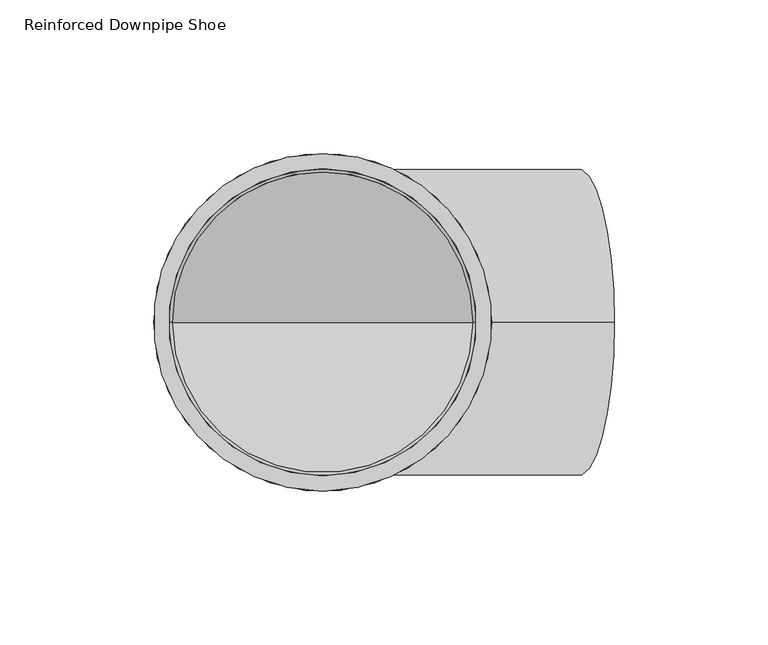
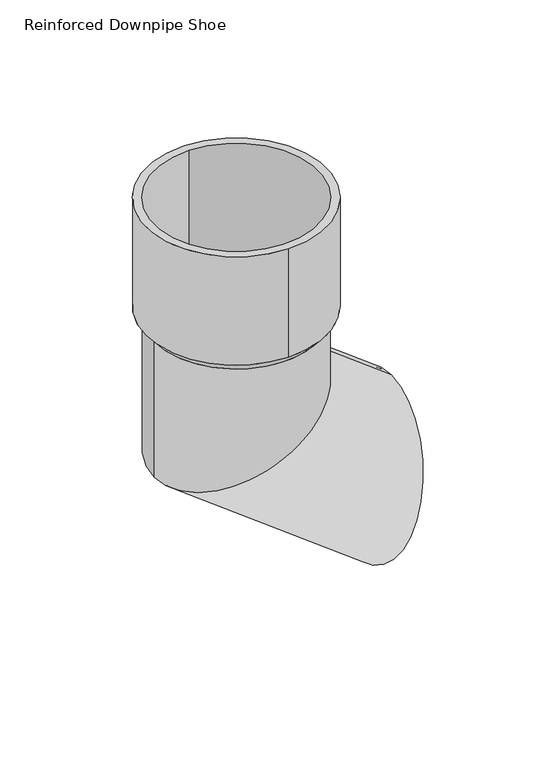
"""IFC4 building model written with IfcOpenShell, lengths in millimetres: proxy geometry, GROVIK_Special_Reinforced Downpipe_Shoe : Reinforced Downpipe Shoe."""

from ifc_helpers import new_model, si_unit, point, frame, origin, origin_with_axes, origin_2d, place, context, project, spatial, polyline, circle_curve, ellipse_curve, trimmed, segment, composite_curve, outline, extrude, source, transform, mapped, element, save
from ifc_brep_helpers import plane_surface, cylinder_surface, revolved_surface, advanced_brep


def reinforced_downpipe_shoe_404acd6b(model_context):
    return source(origin(), model_context, "Body", "SolidModel", [
        extrude(outline(composite_curve([segment(trimmed(circle_curve(origin_2d(), 55.0), [point((0.0, 55.0))], [point((0.0, -55.0))], False, "CARTESIAN"), True, "CONTINUOUS"), segment(trimmed(circle_curve(origin_2d(), 55.0), [point((0.0, -55.0))], [point((0.0, 55.0))], False, "CARTESIAN"), True, "CONTINUOUS")], self_intersect=False), holes=[composite_curve([segment(trimmed(circle_curve(origin_2d(), 50.0), [point((0.0, 50.0))], [point((0.0, -50.0))], True, "CARTESIAN"), True, "CONTINUOUS"), segment(trimmed(circle_curve(origin_2d(), 50.0), [point((0.0, -50.0))], [point((0.0, 50.0))], True, "CARTESIAN"), True, "CONTINUOUS")], self_intersect=False)]), frame((0.0, 0.0, 6.0), z_axis=(0.0, 0.0, 1.0), x_axis=(1.0, 0.0, 0.0)), (0.0, 0.0, 1.0), 70.0),
        advanced_brep(
        [(-55.0, 0.0, 6.0), (55.0, 0.0, 6.0), (50.0, 0.0, 6.0), (-50.0, 0.0, 6.0), (-50.0, 0.0, 0.0), (50.0, 0.0, 0.0), (-49.0, 0.0, 0.0), (49.0, 0.0, 0.0)],
        [
            (0, 1, circle_curve(frame((0.0, 0.0, 6.0), z_axis=(0.0, 0.0, 1.0), x_axis=(-1.0, 0.0, 0.0)), 55.0)),
            (1, 0, circle_curve(frame((0.0, 0.0, 6.0), z_axis=(0.0, 0.0, 1.0), x_axis=(1.0, 0.0, 0.0)), 55.0)),
            (2, 3, circle_curve(frame((0.0, 0.0, 6.0), z_axis=(0.0, 0.0, -1.0), x_axis=(-1.0, 0.0, 0.0)), 50.0)),
            (3, 2, circle_curve(frame((0.0, 0.0, 6.0), z_axis=(0.0, 0.0, -1.0), x_axis=(1.0, 0.0, 0.0)), 50.0)),
            (4, 5, circle_curve(frame((0.0, 0.0, 0.0), z_axis=(0.0, 0.0, -1.0), x_axis=(1.0, 0.0, 0.0)), 50.0)),
            (5, 4, circle_curve(frame((0.0, 0.0, 0.0), z_axis=(0.0, 0.0, -1.0), x_axis=(-1.0, 0.0, 0.0)), 50.0)),
            (6, 7, circle_curve(frame((0.0, 0.0, 0.0), z_axis=(0.0, 0.0, 1.0), x_axis=(-1.0, 0.0, 0.0)), 49.0)),
            (7, 6, circle_curve(origin_with_axes(), 49.0)),
            (0, 4),
            (5, 1),
            (6, 3),
            (2, 7),
        ],
        [
            plane_surface(frame((0.0, 0.0, 6.0), z_axis=(0.0, 0.0, 1.0), x_axis=(0.0, -1.0, 0.0))),
            plane_surface(frame((0.0, 0.0, 0.0), z_axis=(0.0, 0.0, -1.0), x_axis=(0.0, -1.0, 0.0))),
            revolved_surface(polyline([(50.0, 0.0, 0.0), (55.0, 0.0, 6.0)]), (0.0, 0.0, -60.0), (0.0, 0.0, 1.0)),
            revolved_surface(polyline([(-50.0, 0.0, 0.0), (-55.0, 0.0, 6.0)]), (0.0, 0.0, -60.0), (0.0, 0.0, 1.0)),
            revolved_surface(polyline([(-50.0, 0.0, 6.0), (-49.0, 0.0, 0.0)]), (0.0, 0.0, -294.0), (0.0, 0.0, 1.0)),
        ],
        [
            (0, [[1, 2], [3, 4]]),
            (1, [[5, 6], [7, 8]]),
            (2, [[-1, 9, -6, 10]]),
            (3, [[-2, -10, -5, -9]]),
            (4, [[11, -3, 12, -7]]),
            (4, [[-11, -8, -12, -4]]),
        ],
    ),
        advanced_brep(
        [(50.0, 0.0, 0.0), (-50.0, 0.0, 0.0), (49.0, 0.0, 0.0), (-49.0, 0.0, 0.0), (-50.0, 0.0, -87.6357931), (50.0, 0.0, -37.94978), (-49.0, 0.0, -87.138933), (49.0, 0.0, -38.4466401), (94.9681559, 0.0, -72.0306667), (71.0800477, 0.0, -179.4010726), (94.7292748, 0.0, -73.1043708), (71.3189288, 0.0, -178.3273685)],
        [
            (0, 1, circle_curve(frame((0.0, 0.0, 0.0), z_axis=(0.0, 0.0, 1.0), x_axis=(-1.0, 0.0, 0.0)), 50.0)),
            (1, 0, circle_curve(frame((0.0, 0.0, 0.0), z_axis=(0.0, 0.0, 1.0), x_axis=(-1.0, 0.0, 0.0)), 50.0)),
            (2, 3, circle_curve(frame((0.0, 0.0, 0.0), z_axis=(0.0, 0.0, -1.0), x_axis=(-1.0, 0.0, 0.0)), 49.0)),
            (3, 2, circle_curve(frame((0.0, 0.0, 0.0), z_axis=(0.0, 0.0, -1.0), x_axis=(-1.0, 0.0, 0.0)), 49.0)),
            (1, 4),
            (4, 5, ellipse_curve(frame((0.0, 0.0, -62.7927865), z_axis=(-0.4449626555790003, 0.0, 0.8955491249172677), x_axis=(-0.8955491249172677, 0.0, -0.4449626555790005)), 55.8316664, 50.0)),
            (5, 0),
            (5, 4, ellipse_curve(frame((0.0, 0.0, -62.7927865), z_axis=(-0.4449626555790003, 0.0, 0.8955491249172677), x_axis=(-0.8955491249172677, 0.0, -0.4449626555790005)), 55.8316664, 50.0)),
            (3, 6),
            (6, 7, ellipse_curve(frame((0.0, 0.0, -62.7927865), z_axis=(0.4449626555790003, 0.0, -0.8955491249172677), x_axis=(0.8955491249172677, 0.0, 0.4449626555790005)), 54.7150331, 49.0)),
            (7, 2),
            (7, 6, ellipse_curve(frame((0.0, 0.0, -62.7927865), z_axis=(0.4449626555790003, 0.0, -0.8955491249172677), x_axis=(0.8955491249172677, 0.0, 0.4449626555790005)), 54.7150331, 49.0)),
            (8, 9, ellipse_curve(frame((83.0241018, 0.0, -125.7158696), z_axis=(0.9761330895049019, 0.0, -0.21717318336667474), x_axis=(-0.21717318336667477, 0.0, -0.9761330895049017)), 54.9978312, 50.0)),
            (9, 8, ellipse_curve(frame((83.0241018, 0.0, -125.7158696), z_axis=(0.9761330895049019, 0.0, -0.21717318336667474), x_axis=(-0.21717318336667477, 0.0, -0.9761330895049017)), 54.9978312, 50.0)),
            (10, 11, ellipse_curve(frame((83.0241018, 0.0, -125.7158696), z_axis=(-0.9761330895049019, 0.0, 0.21717318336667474), x_axis=(0.21717318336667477, 0.0, 0.9761330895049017)), 53.8978746, 49.0)),
            (11, 10, ellipse_curve(frame((83.0241018, 0.0, -125.7158696), z_axis=(-0.9761330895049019, 0.0, 0.21717318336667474), x_axis=(0.21717318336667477, 0.0, 0.9761330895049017)), 53.8978746, 49.0)),
            (4, 9),
            (8, 5),
            (6, 11),
            (10, 7),
        ],
        [
            plane_surface(frame((0.0, 0.0, 0.0), z_axis=(0.0, 0.0, 1.0), x_axis=(0.0, -1.0, 0.0))),
            cylinder_surface(frame((0.0, 0.0, -62.7927865), z_axis=(0.0, 0.0, -1.0), x_axis=(-1.0, 0.0, 0.0)), 50.0),
            revolved_surface(polyline([(-49.0, 0.0, 0.0), (-49.0, 0.0, -87.138933)]), (0.0, 0.0, -62.7927865), (0.0, 0.0, 1.0)),
            plane_surface(frame((100.9121688, -81.0153965, -45.3139811), z_axis=(0.9761330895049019, 0.0, -0.21717318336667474), x_axis=(0.0, 1.0, 0.0))),
            cylinder_surface(frame((109.7880749, 0.0, -146.0), z_axis=(0.7969718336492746, 0.0, -0.604016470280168), x_axis=(-0.604016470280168, 0.0, -0.7969718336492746)), 50.0),
            revolved_surface(polyline([(-49.00000002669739, 0.0, -87.13893294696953), (71.31892879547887, 0.0, -178.32736850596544)]), (109.7880749, 0.0, -146.0), (-0.7969718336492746, 0.0, 0.604016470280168)),
        ],
        [
            (0, [[1, 2], [3, 4]]),
            (1, [[-2, 5, 6, 7]]),
            (1, [[-1, -7, 8, -5]]),
            (2, [[-4, 9, 10, 11]]),
            (2, [[-3, -11, 12, -9]]),
            (3, [[13, 14], [15, 16]]),
            (4, [[-6, 17, -13, 18]]),
            (4, [[-8, -18, -14, -17]]),
            (5, [[-10, 19, -15, 20]]),
            (5, [[-12, -20, -16, -19]]),
        ],
    ),
    ])


if __name__ == "__main__":
    model = new_model("IFC4")
    model_context = context("Model", 3, world=origin())
    ifc_project = project(units=[si_unit("LENGTHUNIT", "METRE", prefix="MILLI")], contexts=[model_context])
    site = spatial("IfcSite", under=ifc_project)
    building = spatial("IfcBuilding", under=site)
    placement = place(None, origin())
    reinforced_downpipe_shoe_shape = reinforced_downpipe_shoe_404acd6b(model_context)
    element("IfcBuildingElementProxy", 1, Name="GROVIK_Special_Reinforced Downpipe_Shoe : Reinforced Downpipe Shoe", ObjectType="GROVIK_Special_Reinforced Downpipe_Shoe : Reinforced Downpipe Shoe", at=placement, inside=building, context=model_context, shape_type="MappedRepresentation", body=[
        mapped(reinforced_downpipe_shoe_shape, transform((0.0, 0.0, 0.0), x_axis=(1.0, 0.0, 0.0), y_axis=(0.0, 1.0, 0.0), z_axis=(0.0, 0.0, 1.0))),
    ])
    save(model, "model.ifc")
